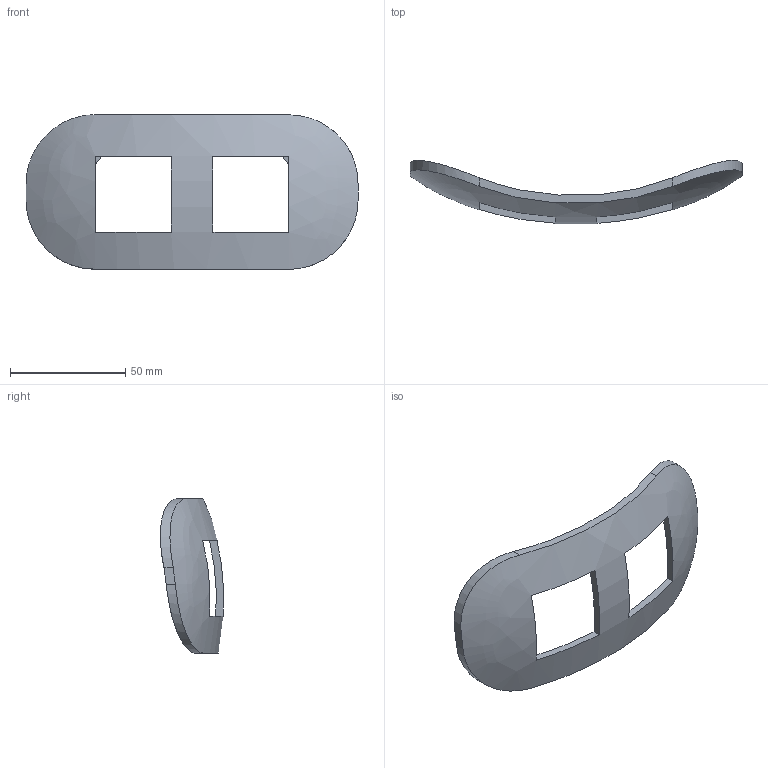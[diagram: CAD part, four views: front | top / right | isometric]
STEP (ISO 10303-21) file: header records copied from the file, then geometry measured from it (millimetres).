
FILE_DESCRIPTION(('Base splice and hand/dowel native rebuild. P1 head/arm retained as imported base geometry.'),'2;1');
FILE_NAME('CAPSULE_VISOR_TRIAL.step','',(''),(''),'SolidCraft','SolidCraft','');
FILE_SCHEMA(('AP242_MANAGED_MODEL_BASED_3D_ENGINEERING_MIM_LF { 1 0 10303 442 1 1 4 }'));
Length unit declared in the file: millimetre
Products named in the file (1): CAPSULE_VISOR_TRIAL
Bounding box: 144 x 27.43 x 67 mm (x, y, z)
Volume: 23265.1 mm3; surface area: 16967.8 mm2
Topology: 1 solids, 1 shells, 20 faces, 58 edges, 40 vertices
Faces by surface type: plane 14, cylinder 4, bspline 2
Entity records: 1264 total; most frequent: CARTESIAN_POINT 840, ORIENTED_EDGE 116, EDGE_CURVE 58, VERTEX_POINT 40, B_SPLINE_CURVE_WITH_KNOTS 38, EDGE_LOOP 24, FACE_BOUND 24, LINE 20
